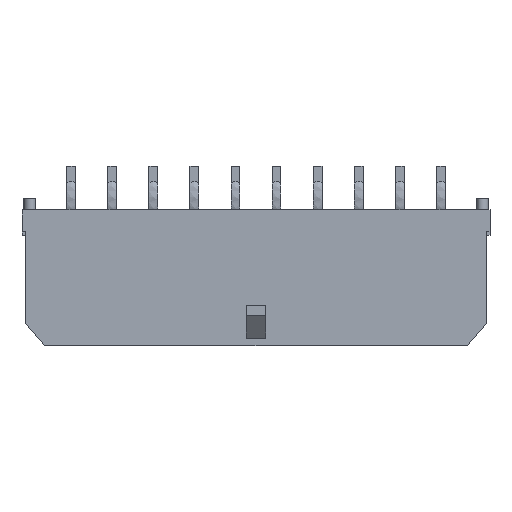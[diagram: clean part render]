
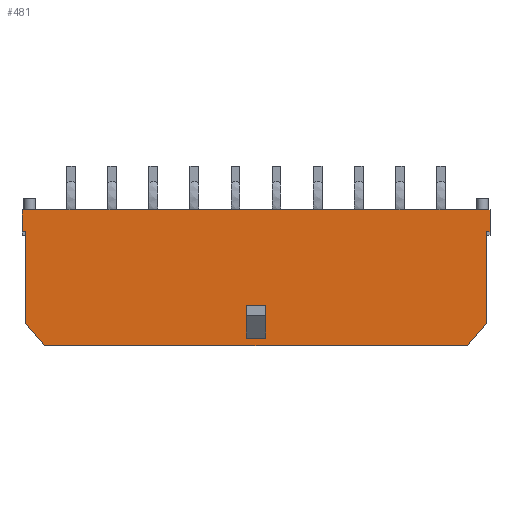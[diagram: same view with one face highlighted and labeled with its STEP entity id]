
A CAD part, top view. The second image highlights one B-rep face of the part: STEP entity #481.
In plain terms, the highlighted planar face has unit normal (0, 0, 1).
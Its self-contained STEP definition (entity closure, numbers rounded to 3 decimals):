
#481=ADVANCED_FACE('',(#3277,#3278),#905,.T.);
#905=PLANE('',#7709);
#1444=LINE('',#9775,#2339);
#1518=LINE('',#10365,#2413);
#1626=LINE('',#10581,#2521);
#1642=LINE('',#10611,#2537);
#1643=LINE('',#10612,#2538);
#1644=LINE('',#10614,#2539);
#1645=LINE('',#10616,#2540);
#1646=LINE('',#10618,#2541);
#1647=LINE('',#10619,#2542);
#1648=LINE('',#10621,#2543);
#1649=LINE('',#10622,#2544);
#1650=LINE('',#10625,#2545);
#1651=LINE('',#10627,#2546);
#1652=LINE('',#10629,#2547);
#2339=VECTOR('',#8098,1.);
#2413=VECTOR('',#8180,1.);
#2521=VECTOR('',#8290,1.);
#2537=VECTOR('',#8310,1.);
#2538=VECTOR('',#8311,1.);
#2539=VECTOR('',#8312,1.);
#2540=VECTOR('',#8313,1.);
#2541=VECTOR('',#8314,1.);
#2542=VECTOR('',#8315,1.);
#2543=VECTOR('',#8316,1.);
#2544=VECTOR('',#8317,1.);
#2545=VECTOR('',#8318,1.);
#2546=VECTOR('',#8319,1.);
#2547=VECTOR('',#8320,1.);
#3277=FACE_BOUND('',#3374,.T.);
#3278=FACE_BOUND('',#3375,.T.);
#3374=EDGE_LOOP('',(#4064,#4065,#4066,#4067,#4068,#4069,#4070,#4071,#4072,
#4073));
#3375=EDGE_LOOP('',(#4074,#4075,#4076,#4077));
#4064=ORIENTED_EDGE('',*,*,#6880,.T.);
#4065=ORIENTED_EDGE('',*,*,#6864,.F.);
#4066=ORIENTED_EDGE('',*,*,#6881,.T.);
#4067=ORIENTED_EDGE('',*,*,#6882,.F.);
#4068=ORIENTED_EDGE('',*,*,#6883,.T.);
#4069=ORIENTED_EDGE('',*,*,#6884,.T.);
#4070=ORIENTED_EDGE('',*,*,#6642,.T.);
#4071=ORIENTED_EDGE('',*,*,#6885,.T.);
#4072=ORIENTED_EDGE('',*,*,#6886,.T.);
#4073=ORIENTED_EDGE('',*,*,#6756,.T.);
#4074=ORIENTED_EDGE('',*,*,#6887,.T.);
#4075=ORIENTED_EDGE('',*,*,#6888,.T.);
#4076=ORIENTED_EDGE('',*,*,#6889,.F.);
#4077=ORIENTED_EDGE('',*,*,#6890,.F.);
#5938=VERTEX_POINT('',#9774);
#5939=VERTEX_POINT('',#9776);
#6050=VERTEX_POINT('',#10364);
#6051=VERTEX_POINT('',#10366);
#6152=VERTEX_POINT('',#10570);
#6157=VERTEX_POINT('',#10580);
#6170=VERTEX_POINT('',#10613);
#6171=VERTEX_POINT('',#10615);
#6172=VERTEX_POINT('',#10617);
#6173=VERTEX_POINT('',#10620);
#6174=VERTEX_POINT('',#10623);
#6175=VERTEX_POINT('',#10624);
#6176=VERTEX_POINT('',#10626);
#6177=VERTEX_POINT('',#10628);
#6642=EDGE_CURVE('',#5939,#5938,#1444,.T.);
#6756=EDGE_CURVE('',#6051,#6050,#1518,.T.);
#6864=EDGE_CURVE('',#6157,#6152,#1626,.T.);
#6880=EDGE_CURVE('',#6050,#6152,#1642,.T.);
#6881=EDGE_CURVE('',#6157,#6170,#1643,.T.);
#6882=EDGE_CURVE('',#6171,#6170,#1644,.T.);
#6883=EDGE_CURVE('',#6171,#6172,#1645,.T.);
#6884=EDGE_CURVE('',#6172,#5939,#1646,.T.);
#6885=EDGE_CURVE('',#5938,#6173,#1647,.T.);
#6886=EDGE_CURVE('',#6173,#6051,#1648,.T.);
#6887=EDGE_CURVE('',#6174,#6175,#1649,.T.);
#6888=EDGE_CURVE('',#6175,#6176,#1650,.T.);
#6889=EDGE_CURVE('',#6177,#6176,#1651,.T.);
#6890=EDGE_CURVE('',#6174,#6177,#1652,.T.);
#7709=AXIS2_PLACEMENT_3D('',#10630,#8321,#8322);
#8098=DIRECTION('',(-1.,0.,0.));
#8180=DIRECTION('',(0.,-1.,0.));
#8290=DIRECTION('',(-1.,0.,0.));
#8310=DIRECTION('',(0.648,-0.762,0.));
#8311=DIRECTION('',(0.648,0.762,0.));
#8312=DIRECTION('',(0.,-1.,0.));
#8313=DIRECTION('',(1.,0.,0.));
#8314=DIRECTION('',(0.,1.,0.));
#8315=DIRECTION('',(0.,-1.,0.));
#8316=DIRECTION('',(1.,0.,0.));
#8317=DIRECTION('',(-1.,0.,0.));
#8318=DIRECTION('',(0.,1.,0.));
#8319=DIRECTION('',(-1.,0.,0.));
#8320=DIRECTION('',(0.,1.,0.));
#8321=DIRECTION('',(0.,0.,1.));
#8322=DIRECTION('',(1.,0.,0.));
#9774=CARTESIAN_POINT('',(-17.075,9.91,3.43));
#9775=CARTESIAN_POINT('',(16.825,9.91,3.43));
#9776=CARTESIAN_POINT('',(17.075,9.91,3.43));
#10364=CARTESIAN_POINT('',(-16.825,1.65,3.43));
#10365=CARTESIAN_POINT('',(-16.825,9.91,3.43));
#10366=CARTESIAN_POINT('',(-16.825,8.31,3.43));
#10570=CARTESIAN_POINT('',(-15.421,0.,3.43));
#10580=CARTESIAN_POINT('',(15.421,0.,3.43));
#10581=CARTESIAN_POINT('',(16.825,0.,3.43));
#10611=CARTESIAN_POINT('',(-16.825,1.65,3.43));
#10612=CARTESIAN_POINT('',(15.421,0.,3.43));
#10613=CARTESIAN_POINT('',(16.825,1.65,3.43));
#10614=CARTESIAN_POINT('',(16.825,9.91,3.43));
#10615=CARTESIAN_POINT('',(16.825,8.31,3.43));
#10616=CARTESIAN_POINT('',(16.825,8.31,3.43));
#10617=CARTESIAN_POINT('',(17.075,8.31,3.43));
#10618=CARTESIAN_POINT('',(17.075,8.31,3.43));
#10619=CARTESIAN_POINT('',(-17.075,9.91,3.43));
#10620=CARTESIAN_POINT('',(-17.075,8.31,3.43));
#10621=CARTESIAN_POINT('',(-17.075,8.31,3.43));
#10622=CARTESIAN_POINT('',(0.7,0.54,3.43));
#10623=CARTESIAN_POINT('',(0.7,0.54,3.43));
#10624=CARTESIAN_POINT('',(-0.7,0.54,3.43));
#10625=CARTESIAN_POINT('',(-0.7,0.54,3.43));
#10626=CARTESIAN_POINT('',(-0.7,2.95,3.43));
#10627=CARTESIAN_POINT('',(0.7,2.95,3.43));
#10628=CARTESIAN_POINT('',(0.7,2.95,3.43));
#10629=CARTESIAN_POINT('',(0.7,0.54,3.43));
#10630=CARTESIAN_POINT('',(16.825,9.91,3.43));
